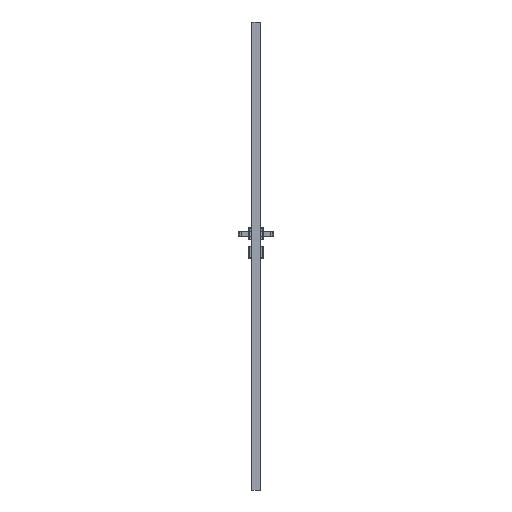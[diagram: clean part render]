
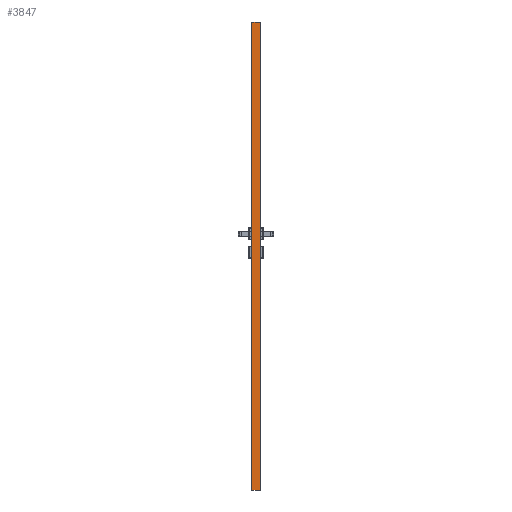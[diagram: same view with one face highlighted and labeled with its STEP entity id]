
A CAD part, left-side view. The second image highlights one B-rep face of the part: STEP entity #3847.
In plain terms, the highlighted planar face has unit normal (-1, 0, 0).
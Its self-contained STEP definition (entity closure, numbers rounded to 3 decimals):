
#3847=ADVANCED_FACE('',(#6481),#5269,.F.);
#5269=PLANE('',#31568);
#6481=FACE_OUTER_BOUND('',#8173,.T.);
#8173=EDGE_LOOP('',(#13915,#13916,#13917,#13918));
#13915=ORIENTED_EDGE('',*,*,#22876,.T.);
#13916=ORIENTED_EDGE('',*,*,#22877,.T.);
#13917=ORIENTED_EDGE('',*,*,#22878,.F.);
#13918=ORIENTED_EDGE('',*,*,#22854,.T.);
#19327=VERTEX_POINT('',#48228);
#19328=VERTEX_POINT('',#48230);
#19343=VERTEX_POINT('',#48271);
#19344=VERTEX_POINT('',#48273);
#22854=EDGE_CURVE('',#19328,#19327,#26386,.T.);
#22876=EDGE_CURVE('',#19327,#19343,#26398,.T.);
#22877=EDGE_CURVE('',#19343,#19344,#26399,.T.);
#22878=EDGE_CURVE('',#19328,#19344,#26400,.T.);
#26386=LINE('',#48229,#29062);
#26398=LINE('',#48270,#29074);
#26399=LINE('',#48272,#29075);
#26400=LINE('',#48274,#29076);
#29062=VECTOR('',#37569,1.);
#29074=VECTOR('',#37609,1.);
#29075=VECTOR('',#37610,1.);
#29076=VECTOR('',#37611,1.);
#31568=AXIS2_PLACEMENT_3D('',#48275,#37612,#37613);
#37569=DIRECTION('',(0.,-1.,0.));
#37609=DIRECTION('',(0.,0.,1.));
#37610=DIRECTION('',(0.,1.,0.));
#37611=DIRECTION('',(0.,0.,1.));
#37612=DIRECTION('',(1.,0.,0.));
#37613=DIRECTION('',(0.,1.,0.));
#48228=CARTESIAN_POINT('',(-309.,-38.35,0.));
#48229=CARTESIAN_POINT('',(-309.,-38.35,0.));
#48230=CARTESIAN_POINT('',(-309.,-1.65,0.));
#48270=CARTESIAN_POINT('',(-309.,-38.35,0.));
#48271=CARTESIAN_POINT('',(-309.,-38.35,2017.01));
#48272=CARTESIAN_POINT('',(-309.,0.,2017.01));
#48273=CARTESIAN_POINT('',(-309.,-1.65,2017.01));
#48274=CARTESIAN_POINT('',(-309.,-1.65,0.));
#48275=CARTESIAN_POINT('',(-309.,-38.35,0.));
